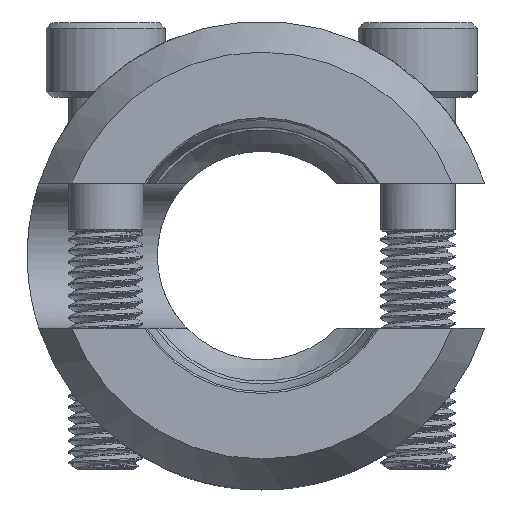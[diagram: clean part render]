
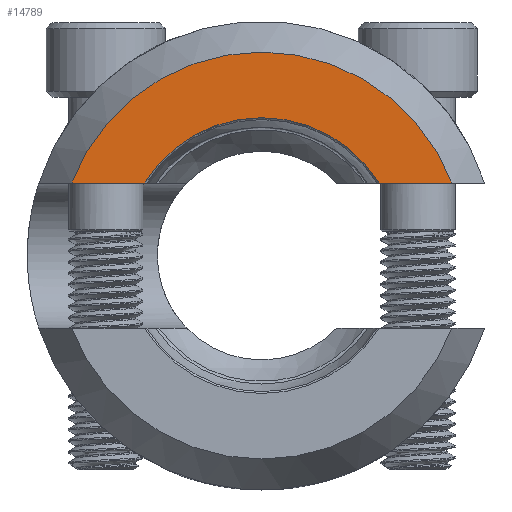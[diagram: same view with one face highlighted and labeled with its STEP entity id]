
A CAD part, left-side view. The second image highlights one B-rep face of the part: STEP entity #14789.
In plain terms, the highlighted planar face has unit normal (-1, 0, 0).
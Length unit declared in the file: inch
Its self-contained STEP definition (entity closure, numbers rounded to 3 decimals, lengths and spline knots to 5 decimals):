
#1709=LINE('',#32065,#2721);
#1715=LINE('',#32105,#2727);
#2721=VECTOR('',#18623,0.3937);
#2727=VECTOR('',#18659,0.3937);
#3101=PLANE('',#15800);
#3856=FACE_OUTER_BOUND('',#4752,.T.);
#4752=EDGE_LOOP('',(#13736,#13737,#13738,#13739));
#5204=CIRCLE('',#15797,1.07561);
#5206=CIRCLE('',#15801,0.729);
#7320=VERTEX_POINT('',#32060);
#7321=VERTEX_POINT('',#32064);
#7339=VERTEX_POINT('',#32102);
#7340=VERTEX_POINT('',#32104);
#9459=EDGE_CURVE('',#7321,#7320,#1709,.T.);
#9479=EDGE_CURVE('',#7340,#7339,#1715,.T.);
#9521=EDGE_CURVE('',#7340,#7320,#5204,.T.);
#9523=EDGE_CURVE('',#7339,#7321,#5206,.T.);
#13736=ORIENTED_EDGE('',*,*,#9479,.T.);
#13737=ORIENTED_EDGE('',*,*,#9523,.T.);
#13738=ORIENTED_EDGE('',*,*,#9459,.T.);
#13739=ORIENTED_EDGE('',*,*,#9521,.F.);
#14789=ADVANCED_FACE('',(#3856),#3101,.T.);
#15797=AXIS2_PLACEMENT_3D('',#32286,#18722,#18723);
#15800=AXIS2_PLACEMENT_3D('',#32289,#18728,#18729);
#15801=AXIS2_PLACEMENT_3D('',#32290,#18730,#18731);
#18623=DIRECTION('',(0.,-1.,0.));
#18659=DIRECTION('',(0.,-1.,0.));
#18722=DIRECTION('center_axis',(1.,0.,0.));
#18723=DIRECTION('ref_axis',(0.,0.,-1.));
#18728=DIRECTION('center_axis',(-1.,0.,0.));
#18729=DIRECTION('ref_axis',(0.,0.,1.));
#18730=DIRECTION('center_axis',(1.,0.,0.));
#18731=DIRECTION('ref_axis',(0.,1.,0.));
#32060=CARTESIAN_POINT('',(0.,-0.94712,0.3835));
#32064=CARTESIAN_POINT('',(0.,-0.56217,0.3835));
#32065=CARTESIAN_POINT('',(0.,0.5667,0.3835));
#32102=CARTESIAN_POINT('',(0.,0.67777,0.3835));
#32104=CARTESIAN_POINT('',(0.,1.06272,0.3835));
#32105=CARTESIAN_POINT('',(0.,0.5667,0.3835));
#32286=CARTESIAN_POINT('Origin',(0.,0.0578,0.));
#32289=CARTESIAN_POINT('Origin',(0.,1.13341,0.));
#32290=CARTESIAN_POINT('Origin',(0.,0.0578,0.));
